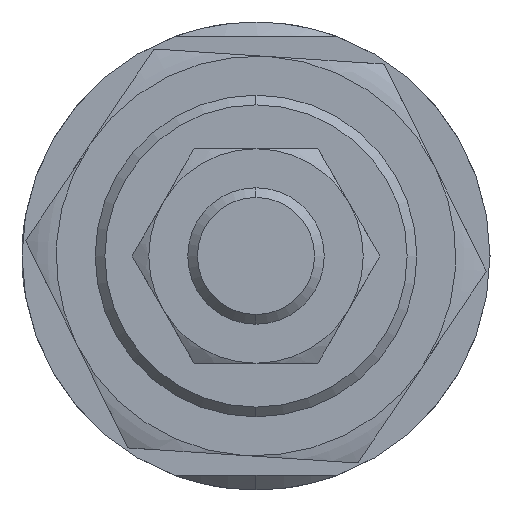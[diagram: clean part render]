
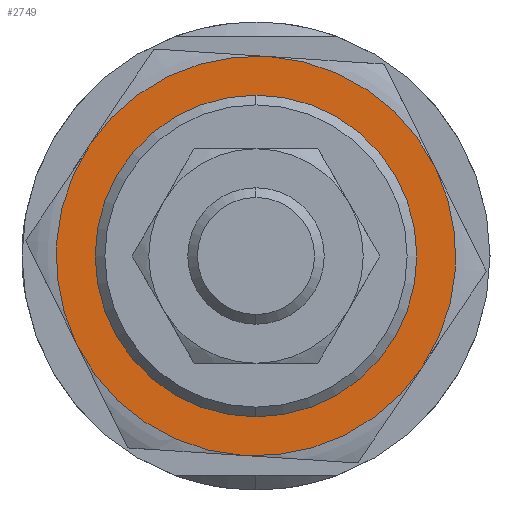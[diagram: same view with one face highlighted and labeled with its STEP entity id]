
A CAD part, left-side view. The second image highlights one B-rep face of the part: STEP entity #2749.
In plain terms, the highlighted planar face has unit normal (-1, 0, 0) as drawn and (0, 0, -1) by its records, which use the part's own axes.
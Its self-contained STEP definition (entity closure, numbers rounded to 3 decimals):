
#66 = ORIENTED_EDGE ( 'NONE', *, *, #2871, .F. ) ;
#195 = CARTESIAN_POINT ( 'NONE',  ( -15.5, 0., -5.5 ) ) ;
#257 = CARTESIAN_POINT ( 'NONE',  ( 0., 0., -5.5 ) ) ;
#285 = CARTESIAN_POINT ( 'NONE',  ( 0., 0., -5.5 ) ) ;
#377 = DIRECTION ( 'NONE',  ( 1., 0., 0. ) ) ;
#474 = CIRCLE ( 'NONE', #2693, 15.5 ) ;
#478 = FACE_OUTER_BOUND ( 'NONE', #3384, .T. ) ;
#538 = CIRCLE ( 'NONE', #2459, 20.5 ) ;
#590 = VERTEX_POINT ( 'NONE', #1290 ) ;
#675 = ORIENTED_EDGE ( 'NONE', *, *, #874, .F. ) ;
#676 = DIRECTION ( 'NONE',  ( 1., 0., 0. ) ) ;
#682 = DIRECTION ( 'NONE',  ( 0., 0., 1. ) ) ;
#743 = EDGE_LOOP ( 'NONE', ( #2966, #2077 ) ) ;
#780 = ORIENTED_EDGE ( 'NONE', *, *, #1069, .F. ) ;
#799 = CIRCLE ( 'NONE', #2413, 20.5 ) ;
#841 = CARTESIAN_POINT ( 'NONE',  ( 0., 0., -5.5 ) ) ;
#874 = EDGE_CURVE ( 'NONE', #918, #2169, #538, .T. ) ;
#905 = PLANE ( 'NONE',  #2192 ) ;
#911 = CARTESIAN_POINT ( 'NONE',  ( 0., 0., -5.5 ) ) ;
#918 = VERTEX_POINT ( 'NONE', #1064 ) ;
#934 = DIRECTION ( 'NONE',  ( 1., 0., 0. ) ) ;
#953 = AXIS2_PLACEMENT_3D ( 'NONE', #841, #3426, #2809 ) ;
#1064 = CARTESIAN_POINT ( 'NONE',  ( 20.5, 0., -5.5 ) ) ;
#1069 = EDGE_CURVE ( 'NONE', #2810, #2916, #1441, .T. ) ;
#1136 = CIRCLE ( 'NONE', #1383, 20.5 ) ;
#1240 = CARTESIAN_POINT ( 'NONE',  ( -10.25, 17.754, -5.5 ) ) ;
#1290 = CARTESIAN_POINT ( 'NONE',  ( 10.25, -17.754, -5.5 ) ) ;
#1305 = EDGE_CURVE ( 'NONE', #2697, #1546, #3403, .T. ) ;
#1383 = AXIS2_PLACEMENT_3D ( 'NONE', #3392, #1888, #377 ) ;
#1384 = CARTESIAN_POINT ( 'NONE',  ( 15.5, 0., -5.5 ) ) ;
#1441 = CIRCLE ( 'NONE', #1478, 20.5 ) ;
#1478 = AXIS2_PLACEMENT_3D ( 'NONE', #2016, #2467, #3369 ) ;
#1530 = CARTESIAN_POINT ( 'NONE',  ( -20.5, 0., -5.5 ) ) ;
#1546 = VERTEX_POINT ( 'NONE', #1384 ) ;
#1568 = DIRECTION ( 'NONE',  ( 1., 0., 0. ) ) ;
#1591 = CARTESIAN_POINT ( 'NONE',  ( 0., 0., -5.5 ) ) ;
#1726 = EDGE_CURVE ( 'NONE', #1546, #2697, #474, .T. ) ;
#1888 = DIRECTION ( 'NONE',  ( 0., 0., 1. ) ) ;
#1946 = EDGE_CURVE ( 'NONE', #590, #918, #1136, .T. ) ;
#2016 = CARTESIAN_POINT ( 'NONE',  ( 0., 0., -5.5 ) ) ;
#2077 = ORIENTED_EDGE ( 'NONE', *, *, #1305, .T. ) ;
#2167 = CARTESIAN_POINT ( 'NONE',  ( 0., 0., -5.5 ) ) ;
#2169 = VERTEX_POINT ( 'NONE', #2725 ) ;
#2173 = DIRECTION ( 'NONE',  ( 0., 0., 1. ) ) ;
#2192 = AXIS2_PLACEMENT_3D ( 'NONE', #2866, #2173, #3436 ) ;
#2296 = CARTESIAN_POINT ( 'NONE',  ( -10.25, -17.754, -5.5 ) ) ;
#2364 = ORIENTED_EDGE ( 'NONE', *, *, #2982, .F. ) ;
#2413 = AXIS2_PLACEMENT_3D ( 'NONE', #2167, #682, #3080 ) ;
#2459 = AXIS2_PLACEMENT_3D ( 'NONE', #285, #2519, #676 ) ;
#2467 = DIRECTION ( 'NONE',  ( 0., 0., 1. ) ) ;
#2487 = DIRECTION ( 'NONE',  ( 0., 0., 1. ) ) ;
#2517 = EDGE_CURVE ( 'NONE', #2916, #2716, #2774, .T. ) ;
#2519 = DIRECTION ( 'NONE',  ( 0., 0., 1. ) ) ;
#2693 = AXIS2_PLACEMENT_3D ( 'NONE', #911, #2870, #1568 ) ;
#2697 = VERTEX_POINT ( 'NONE', #195 ) ;
#2716 = VERTEX_POINT ( 'NONE', #2296 ) ;
#2725 = CARTESIAN_POINT ( 'NONE',  ( 10.25, 17.754, -5.5 ) ) ;
#2733 = DIRECTION ( 'NONE',  ( 0., 0., 1. ) ) ;
#2749 = ADVANCED_FACE ( 'NONE', ( #3321, #478 ), #905, .F. ) ;
#2764 = CIRCLE ( 'NONE', #3101, 20.5 ) ;
#2774 = CIRCLE ( 'NONE', #953, 20.5 ) ;
#2809 = DIRECTION ( 'NONE',  ( 1., 0., 0. ) ) ;
#2810 = VERTEX_POINT ( 'NONE', #1240 ) ;
#2866 = CARTESIAN_POINT ( 'NONE',  ( 0., 0., -5.5 ) ) ;
#2870 = DIRECTION ( 'NONE',  ( 0., 0., 1. ) ) ;
#2871 = EDGE_CURVE ( 'NONE', #2169, #2810, #2764, .T. ) ;
#2916 = VERTEX_POINT ( 'NONE', #1530 ) ;
#2966 = ORIENTED_EDGE ( 'NONE', *, *, #1726, .T. ) ;
#2982 = EDGE_CURVE ( 'NONE', #2716, #590, #799, .T. ) ;
#3032 = AXIS2_PLACEMENT_3D ( 'NONE', #1591, #2733, #934 ) ;
#3046 = DIRECTION ( 'NONE',  ( 1., 0., 0. ) ) ;
#3080 = DIRECTION ( 'NONE',  ( 1., 0., 0. ) ) ;
#3098 = ORIENTED_EDGE ( 'NONE', *, *, #1946, .F. ) ;
#3101 = AXIS2_PLACEMENT_3D ( 'NONE', #257, #2487, #3046 ) ;
#3321 = FACE_BOUND ( 'NONE', #743, .T. ) ;
#3329 = ORIENTED_EDGE ( 'NONE', *, *, #2517, .F. ) ;
#3369 = DIRECTION ( 'NONE',  ( 1., 0., 0. ) ) ;
#3384 = EDGE_LOOP ( 'NONE', ( #675, #3098, #2364, #3329, #780, #66 ) ) ;
#3392 = CARTESIAN_POINT ( 'NONE',  ( 0., 0., -5.5 ) ) ;
#3403 = CIRCLE ( 'NONE', #3032, 15.5 ) ;
#3426 = DIRECTION ( 'NONE',  ( 0., 0., 1. ) ) ;
#3436 = DIRECTION ( 'NONE',  ( 1., 0., 0. ) ) ;
